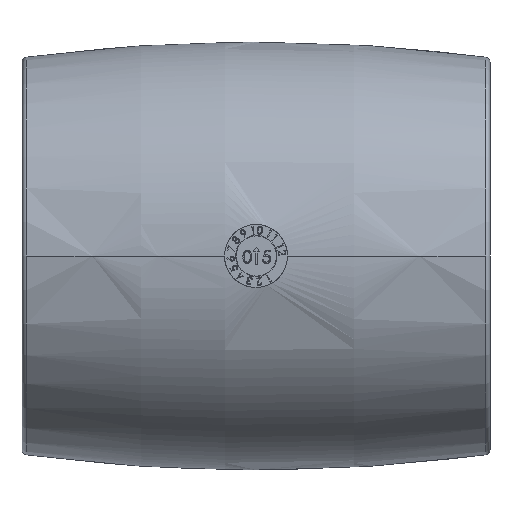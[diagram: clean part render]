
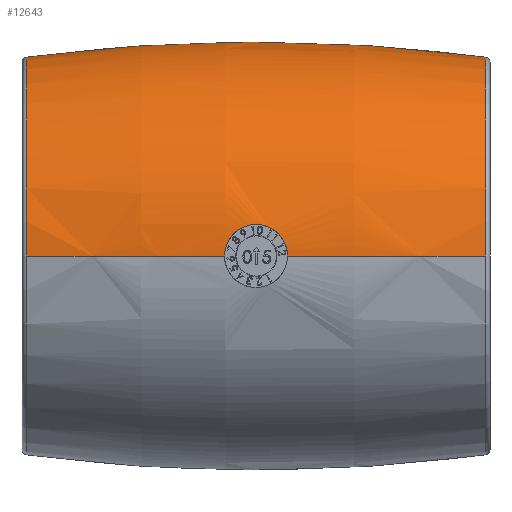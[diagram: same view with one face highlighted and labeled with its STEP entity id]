
A CAD part, front view. The second image highlights one B-rep face of the part: STEP entity #12643.
In plain terms, the highlighted toroidal (fillet/blend) face has major radius 307.5 mm and minor radius 350 mm.
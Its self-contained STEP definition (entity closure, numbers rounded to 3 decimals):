
#2678 = FACE_OUTER_BOUND ( 'NONE', #49933, .T. ) ;
#2687 = DIRECTION ( 'NONE',  ( -1., 0., 0. ) ) ;
#2692 = CARTESIAN_POINT ( 'NONE',  ( 0., 0., 0. ) ) ;
#2695 = DIRECTION ( 'NONE',  ( 0., 0., 1. ) ) ;
#10948 = B_SPLINE_CURVE_WITH_KNOTS ( 'NONE', 3,
 ( #35340, #35341, #35346, #35347, #35348, #35349, #35350, #35351, #35352, #35353, #35354, #35355, #35356, #35357, #35358, #35359, #35360, #35361 ),
 .UNSPECIFIED., .F., .F.,
 ( 4, 2, 2, 2, 2, 2, 2, 2, 4 ),
 ( 0.011, 0.013, 0.014, 0.015, 0.016, 0.017, 0.018, 0.019, 0.02 ),
 .UNSPECIFIED. ) ;
#10949 = B_SPLINE_CURVE_WITH_KNOTS ( 'NONE', 3,
 ( #35336, #35345, #35364, #35365 ),
 .UNSPECIFIED., .F., .F.,
 ( 4, 4 ),
 ( 0., 0.001 ),
 .UNSPECIFIED. ) ;
#10950 = B_SPLINE_CURVE_WITH_KNOTS ( 'NONE', 3,
 ( #35362, #35363, #35368, #35369, #35370, #35371, #35372, #35373, #35374, #35375, #35376, #35377, #35378, #35379, #35380, #35381, #35382, #35383 ),
 .UNSPECIFIED., .F., .F.,
 ( 4, 2, 2, 2, 2, 2, 2, 2, 4 ),
 ( 0.001, 0.002, 0.003, 0.004, 0.005, 0.006, 0.007, 0.008, 0.009 ),
 .UNSPECIFIED. ) ;
#12643 = ADVANCED_FACE ( 'NONE', ( #2678 ), #34774, .T. ) ;
#19265 = VERTEX_POINT ( 'NONE', #23853 ) ;
#19277 = VERTEX_POINT ( 'NONE', #23865 ) ;
#19284 = VERTEX_POINT ( 'NONE', #23872 ) ;
#19286 = VERTEX_POINT ( 'NONE', #23874 ) ;
#19289 = VERTEX_POINT ( 'NONE', #23877 ) ;
#19319 = VERTEX_POINT ( 'NONE', #23907 ) ;
#19352 = VERTEX_POINT ( 'NONE', #23940 ) ;
#19357 = VERTEX_POINT ( 'NONE', #23945 ) ;
#19364 = VERTEX_POINT ( 'NONE', #23952 ) ;
#19969 = EDGE_CURVE ( 'NONE', #19277, #19319, #26284, .T. ) ;
#19974 = EDGE_CURVE ( 'NONE', #19284, #19289, #30247, .T. ) ;
#19994 = EDGE_CURVE ( 'NONE', #19265, #19286, #26328, .T. ) ;
#23853 = CARTESIAN_POINT ( 'NONE',  ( -45.63, 0., 39.513 ) ) ;
#23865 = CARTESIAN_POINT ( 'NONE',  ( 45.63, -39.513, 0. ) ) ;
#23872 = CARTESIAN_POINT ( 'NONE',  ( 0., -42.038, 6.25 ) ) ;
#23874 = CARTESIAN_POINT ( 'NONE',  ( -45.63, -39.513, 0. ) ) ;
#23877 = CARTESIAN_POINT ( 'NONE',  ( -1.211, -42.053, 6.132 ) ) ;
#23907 = CARTESIAN_POINT ( 'NONE',  ( 45.63, 0., 39.513 ) ) ;
#23940 = CARTESIAN_POINT ( 'NONE',  ( -6.25, -42.444, 0. ) ) ;
#23945 = CARTESIAN_POINT ( 'NONE',  ( 1.211, -42.053, 6.132 ) ) ;
#23952 = CARTESIAN_POINT ( 'NONE',  ( 6.25, -42.444, 0. ) ) ;
#26284 = CIRCLE ( 'NONE', #26287, 39.513 ) ;
#26287 = AXIS2_PLACEMENT_3D ( 'NONE', #26789, #26790, #26791 ) ;
#26328 = CIRCLE ( 'NONE', #26331, 39.513 ) ;
#26331 = AXIS2_PLACEMENT_3D ( 'NONE', #26865, #26866, #26867 ) ;
#26789 = CARTESIAN_POINT ( 'NONE',  ( 45.63, 0., 0. ) ) ;
#26790 = DIRECTION ( 'NONE',  ( -1., 0., 0. ) ) ;
#26791 = DIRECTION ( 'NONE',  ( 0., 0., 1. ) ) ;
#26798 = CARTESIAN_POINT ( 'NONE',  ( -0.404, -42.038, 6.25 ) ) ;
#26802 = CARTESIAN_POINT ( 'NONE',  ( 0., -42.038, 6.25 ) ) ;
#26804 = CARTESIAN_POINT ( 'NONE',  ( -0.807, -42.043, 6.211 ) ) ;
#26805 = CARTESIAN_POINT ( 'NONE',  ( -1.211, -42.053, 6.132 ) ) ;
#26865 = CARTESIAN_POINT ( 'NONE',  ( -45.63, 0., 0. ) ) ;
#26866 = DIRECTION ( 'NONE',  ( 1., 0., 0. ) ) ;
#26867 = DIRECTION ( 'NONE',  ( 0., 0., -1. ) ) ;
#30247 = B_SPLINE_CURVE_WITH_KNOTS ( 'NONE', 3,
 ( #26802, #26798, #26804, #26805 ),
 .UNSPECIFIED., .F., .F.,
 ( 4, 4 ),
 ( 0.001, 0.002 ),
 .UNSPECIFIED. ) ;
#34209 = CIRCLE ( 'NONE', #34212, 350. ) ;
#34211 = CIRCLE ( 'NONE', #34214, 350. ) ;
#34212 = AXIS2_PLACEMENT_3D ( 'NONE', #35337, #35338, #35339 ) ;
#34214 = AXIS2_PLACEMENT_3D ( 'NONE', #35342, #35343, #35344 ) ;
#34215 = CIRCLE ( 'NONE', #34216, 350. ) ;
#34216 = AXIS2_PLACEMENT_3D ( 'NONE', #35386, #35387, #35388 ) ;
#34774 = TOROIDAL_SURFACE ( 'NONE', #34793, -307.5, 350. ) ;
#34793 = AXIS2_PLACEMENT_3D ( 'NONE', #2692, #2687, #2695 ) ;
#35336 = CARTESIAN_POINT ( 'NONE',  ( 1.211, -42.053, 6.132 ) ) ;
#35337 = CARTESIAN_POINT ( 'NONE',  ( 0., 0., -307.5 ) ) ;
#35338 = DIRECTION ( 'NONE',  ( 0., -1., 0. ) ) ;
#35339 = DIRECTION ( 'NONE',  ( 0., 0., -1. ) ) ;
#35340 = CARTESIAN_POINT ( 'NONE',  ( -1.211, -42.053, 6.132 ) ) ;
#35341 = CARTESIAN_POINT ( 'NONE',  ( -1.561, -42.062, 6.063 ) ) ;
#35342 = CARTESIAN_POINT ( 'NONE',  ( 0., 307.5, 0. ) ) ;
#35343 = DIRECTION ( 'NONE',  ( 0., 0., -1. ) ) ;
#35344 = DIRECTION ( 'NONE',  ( -1., 0., 0. ) ) ;
#35345 = CARTESIAN_POINT ( 'NONE',  ( 0.807, -42.043, 6.211 ) ) ;
#35346 = CARTESIAN_POINT ( 'NONE',  ( -1.905, -42.075, 5.964 ) ) ;
#35347 = CARTESIAN_POINT ( 'NONE',  ( -2.58, -42.106, 5.704 ) ) ;
#35348 = CARTESIAN_POINT ( 'NONE',  ( -2.901, -42.125, 5.547 ) ) ;
#35349 = CARTESIAN_POINT ( 'NONE',  ( -3.513, -42.166, 5.182 ) ) ;
#35350 = CARTESIAN_POINT ( 'NONE',  ( -3.804, -42.188, 4.972 ) ) ;
#35351 = CARTESIAN_POINT ( 'NONE',  ( -4.351, -42.235, 4.501 ) ) ;
#35352 = CARTESIAN_POINT ( 'NONE',  ( -4.6, -42.258, 4.246 ) ) ;
#35353 = CARTESIAN_POINT ( 'NONE',  ( -5.053, -42.303, 3.695 ) ) ;
#35354 = CARTESIAN_POINT ( 'NONE',  ( -5.257, -42.325, 3.399 ) ) ;
#35355 = CARTESIAN_POINT ( 'NONE',  ( -5.613, -42.366, 2.772 ) ) ;
#35356 = CARTESIAN_POINT ( 'NONE',  ( -5.762, -42.383, 2.448 ) ) ;
#35357 = CARTESIAN_POINT ( 'NONE',  ( -6.003, -42.413, 1.776 ) ) ;
#35358 = CARTESIAN_POINT ( 'NONE',  ( -6.095, -42.424, 1.428 ) ) ;
#35359 = CARTESIAN_POINT ( 'NONE',  ( -6.219, -42.44, 0.716 ) ) ;
#35360 = CARTESIAN_POINT ( 'NONE',  ( -6.25, -42.444, 0.359 ) ) ;
#35361 = CARTESIAN_POINT ( 'NONE',  ( -6.25, -42.444, 0. ) ) ;
#35362 = CARTESIAN_POINT ( 'NONE',  ( 6.25, -42.444, 0. ) ) ;
#35363 = CARTESIAN_POINT ( 'NONE',  ( 6.25, -42.444, 0.358 ) ) ;
#35364 = CARTESIAN_POINT ( 'NONE',  ( 0.404, -42.038, 6.25 ) ) ;
#35365 = CARTESIAN_POINT ( 'NONE',  ( 0., -42.038, 6.25 ) ) ;
#35368 = CARTESIAN_POINT ( 'NONE',  ( 6.219, -42.44, 0.714 ) ) ;
#35369 = CARTESIAN_POINT ( 'NONE',  ( 6.097, -42.425, 1.42 ) ) ;
#35370 = CARTESIAN_POINT ( 'NONE',  ( 6.004, -42.413, 1.773 ) ) ;
#35371 = CARTESIAN_POINT ( 'NONE',  ( 5.762, -42.383, 2.446 ) ) ;
#35372 = CARTESIAN_POINT ( 'NONE',  ( 5.614, -42.366, 2.771 ) ) ;
#35373 = CARTESIAN_POINT ( 'NONE',  ( 5.261, -42.326, 3.394 ) ) ;
#35374 = CARTESIAN_POINT ( 'NONE',  ( 5.054, -42.304, 3.694 ) ) ;
#35375 = CARTESIAN_POINT ( 'NONE',  ( 4.601, -42.258, 4.245 ) ) ;
#35376 = CARTESIAN_POINT ( 'NONE',  ( 4.352, -42.235, 4.5 ) ) ;
#35377 = CARTESIAN_POINT ( 'NONE',  ( 3.809, -42.189, 4.968 ) ) ;
#35378 = CARTESIAN_POINT ( 'NONE',  ( 3.514, -42.166, 5.181 ) ) ;
#35379 = CARTESIAN_POINT ( 'NONE',  ( 2.901, -42.125, 5.547 ) ) ;
#35380 = CARTESIAN_POINT ( 'NONE',  ( 2.581, -42.106, 5.704 ) ) ;
#35381 = CARTESIAN_POINT ( 'NONE',  ( 1.911, -42.075, 5.962 ) ) ;
#35382 = CARTESIAN_POINT ( 'NONE',  ( 1.561, -42.062, 6.062 ) ) ;
#35383 = CARTESIAN_POINT ( 'NONE',  ( 1.211, -42.053, 6.132 ) ) ;
#35386 = CARTESIAN_POINT ( 'NONE',  ( 0., 307.5, 0. ) ) ;
#35387 = DIRECTION ( 'NONE',  ( 0., 0., -1. ) ) ;
#35388 = DIRECTION ( 'NONE',  ( -1., 0., 0. ) ) ;
#40330 = ORIENTED_EDGE ( 'NONE', *, *, #43222, .F. ) ;
#40331 = ORIENTED_EDGE ( 'NONE', *, *, #43223, .F. ) ;
#43218 = EDGE_CURVE ( 'NONE', #19319, #19265, #34209, .T. ) ;
#43219 = EDGE_CURVE ( 'NONE', #19352, #19286, #34211, .T. ) ;
#43220 = EDGE_CURVE ( 'NONE', #19289, #19352, #10948, .T. ) ;
#43221 = EDGE_CURVE ( 'NONE', #19357, #19284, #10949, .T. ) ;
#43222 = EDGE_CURVE ( 'NONE', #19364, #19357, #10950, .T. ) ;
#43223 = EDGE_CURVE ( 'NONE', #19277, #19364, #34215, .T. ) ;
#49889 = ORIENTED_EDGE ( 'NONE', *, *, #19969, .T. ) ;
#49892 = ORIENTED_EDGE ( 'NONE', *, *, #43221, .F. ) ;
#49894 = ORIENTED_EDGE ( 'NONE', *, *, #43219, .F. ) ;
#49896 = ORIENTED_EDGE ( 'NONE', *, *, #19974, .F. ) ;
#49897 = ORIENTED_EDGE ( 'NONE', *, *, #43220, .F. ) ;
#49898 = ORIENTED_EDGE ( 'NONE', *, *, #19994, .T. ) ;
#49901 = ORIENTED_EDGE ( 'NONE', *, *, #43218, .T. ) ;
#49933 = EDGE_LOOP ( 'NONE', ( #49889, #49901, #49898, #49894, #49897, #49896, #49892, #40330, #40331 ) ) ;
